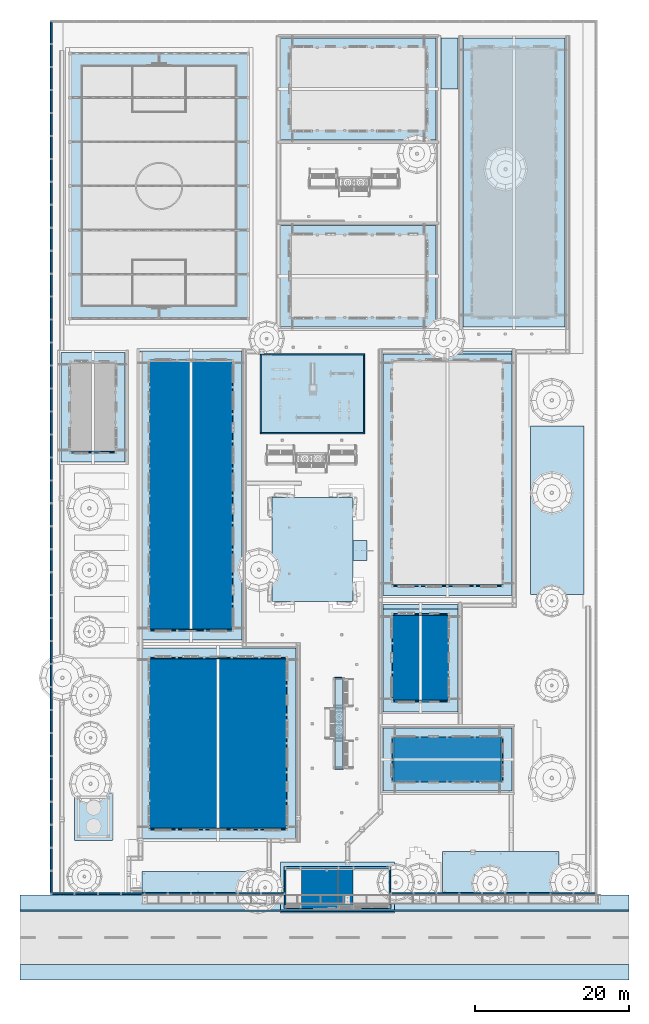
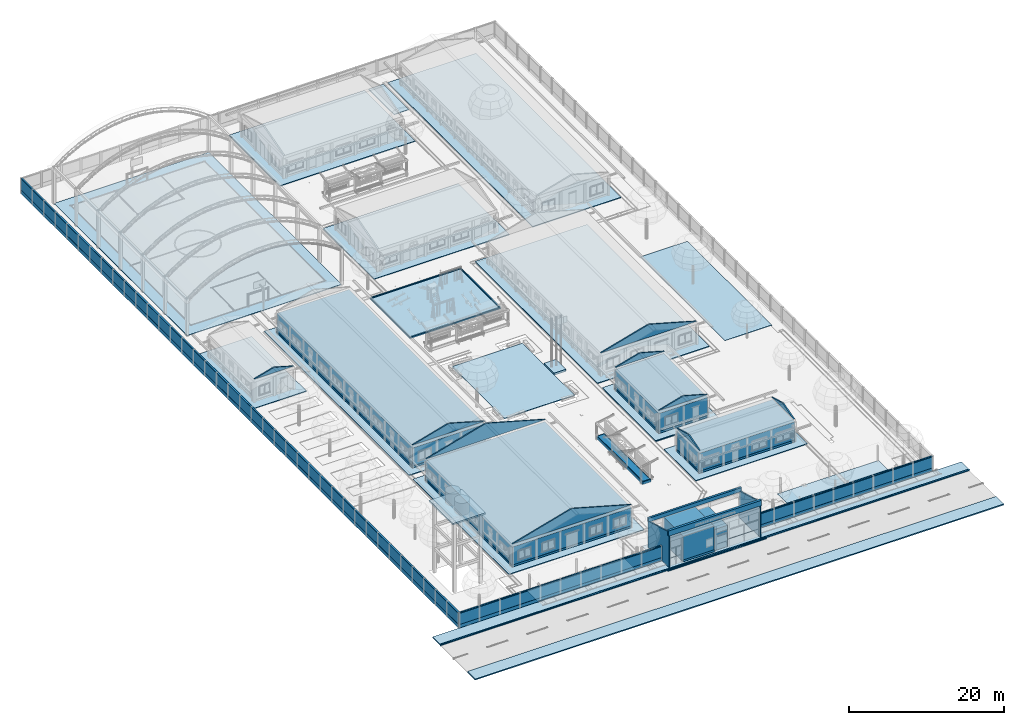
# One storey, part 39 of 177: 35 walls, 31 slabs.
"""IFC4 building model written with IfcOpenShell, lengths in metres."""

from ifc_helpers import new_model, si_unit, origin, origin_with_axes, place, context, subcontext, project, spatial, triangles, element, save


model = new_model("IFC4")

# Units and contexts
model_context = context("Model", 3, precision=1e-05, world=origin_with_axes())
body_context = subcontext(model_context, "Body", "Model", "MODEL_VIEW")
ifc_project = project(units=[si_unit("LENGTHUNIT", "METRE"), si_unit("AREAUNIT", "SQUARE_METRE"), si_unit("VOLUMEUNIT", "CUBIC_METRE"), si_unit("PLANEANGLEUNIT", "RADIAN")], contexts=[model_context])

# Site, building, storey
site_placement = place(None, origin_with_axes())
site = spatial("IfcSite", under=ifc_project, at=site_placement, Name="Predio Los Mangos - Morales, San Martín", CompositionType="ELEMENT")
building_placement = place(site_placement, origin())
building = spatial("IfcBuilding", under=site, at=building_placement, Name="Hogar de Refugio Temporal", CompositionType="ELEMENT")
storey_placement = place(building_placement, origin())
storey = spatial("IfcBuildingStorey", under=building, at=storey_placement, Name="NIVEL 1 (NPT +0.00)", CompositionType="ELEMENT", Elevation=0.0)

# Slabs
slab_1_placement = place(storey_placement, origin())
element("IfcSlab", 1, at=slab_1_placement, inside=storey, Name="vereda_ext", ObjectType="Piso / losa", PredefinedType="FLOOR", context=body_context, shape_type="Tessellation", body=[
    triangles([(-3.0, 15.8, -0.02), (76.0, 15.8, -0.02), (76.0, 17.8, -0.02), (-3.0, 17.8, -0.02), (-3.0, 15.8, 0.15), (76.0, 15.8, 0.15), (76.0, 17.8, 0.15), (-3.0, 17.8, 0.15)], [[1, 4, 3], [1, 3, 2], [5, 6, 7], [5, 7, 8], [1, 2, 6], [1, 6, 5], [2, 3, 7], [2, 7, 6], [3, 4, 8], [3, 8, 7], [4, 1, 5], [4, 5, 8]]),
])
slab_2_placement = place(storey_placement, origin())
element("IfcSlab", 2, at=slab_2_placement, inside=storey, Name="vereda_otra", ObjectType="Piso / losa", PredefinedType="FLOOR", context=body_context, shape_type="Tessellation", body=[
    triangles([(-3.0, 6.8, -0.02), (76.0, 6.8, -0.02), (76.0, 8.8, -0.02), (-3.0, 8.8, -0.02), (-3.0, 6.8, 0.15), (76.0, 6.8, 0.15), (76.0, 8.8, 0.15), (-3.0, 8.8, 0.15)], [[1, 4, 3], [1, 3, 2], [5, 6, 7], [5, 7, 8], [1, 2, 6], [1, 6, 5], [2, 3, 7], [2, 7, 6], [3, 4, 8], [3, 8, 7], [4, 1, 5], [4, 5, 8]]),
])
slab_3_placement = place(storey_placement, origin())
element("IfcSlab", 3, at=slab_3_placement, inside=storey, Name="sardinel", ObjectType="Piso / losa", PredefinedType="FLOOR", context=body_context, shape_type="Tessellation", body=[
    triangles([(-3.0, 15.7, -0.02), (76.0, 15.7, -0.02), (76.0, 15.85, -0.02), (-3.0, 15.85, -0.02), (-3.0, 15.7, 0.17), (76.0, 15.7, 0.17), (76.0, 15.85, 0.17), (-3.0, 15.85, 0.17)], [[1, 4, 3], [1, 3, 2], [5, 6, 7], [5, 7, 8], [1, 2, 6], [1, 6, 5], [2, 3, 7], [2, 7, 6], [3, 4, 8], [3, 8, 7], [4, 1, 5], [4, 5, 8]]),
])
slab_4_placement = place(storey_placement, origin())
element("IfcSlab", 4, at=slab_4_placement, inside=storey, Name="vereda_0", ObjectType="Piso / losa", PredefinedType="FLOOR", context=body_context, shape_type="Tessellation", body=[
    triangles([(44.08, 56.674, 0.0), (60.81, 56.674, 0.0), (60.81, 88.004, 0.0), (44.08, 88.004, 0.0), (44.08, 56.674, 0.1), (44.08, 88.004, 0.1), (60.81, 88.004, 0.1), (60.81, 56.674, 0.1)], [[1, 2, 3], [1, 3, 4], [5, 6, 7], [5, 7, 8], [4, 3, 7], [4, 7, 6], [2, 1, 5], [2, 5, 8], [3, 2, 8], [3, 8, 7], [1, 4, 6], [1, 6, 5]]),
])
slab_5_placement = place(storey_placement, origin())
element("IfcSlab", 5, at=slab_5_placement, inside=storey, Name="vereda_1", ObjectType="Piso / losa", PredefinedType="FLOOR", context=body_context, shape_type="Tessellation", body=[
    triangles([(63.205, 78.669, 0.0), (70.205, 78.669, 0.0), (70.205, 56.844, 0.0), (63.205, 56.844, 0.0), (63.205, 78.669, 0.102), (70.205, 78.669, 0.102), (70.205, 56.844, 0.102), (63.205, 56.844, 0.102)], [[1, 4, 3], [1, 3, 2], [5, 6, 7], [5, 7, 8], [1, 2, 6], [1, 6, 5], [2, 3, 7], [2, 7, 6], [4, 1, 5], [4, 5, 8], [3, 4, 8], [3, 8, 7]]),
])
slab_6_placement = place(storey_placement, origin())
element("IfcSlab", 6, at=slab_6_placement, inside=storey, Name="vereda_2", ObjectType="Piso / losa", PredefinedType="FLOOR", context=body_context, shape_type="Tessellation", body=[
    triangles([(51.635, 129.024, 0.0), (53.835, 129.024, 0.0), (53.835, 122.424, 0.0), (51.635, 122.424, 0.0), (51.635, 129.024, 0.104), (53.835, 129.024, 0.104), (53.835, 122.424, 0.104), (51.635, 122.424, 0.104)], [[1, 4, 3], [1, 3, 2], [5, 6, 7], [5, 7, 8], [1, 2, 6], [1, 6, 5], [2, 3, 7], [2, 7, 6], [4, 1, 5], [4, 5, 8], [3, 4, 8], [3, 8, 7]]),
])
slab_7_placement = place(storey_placement, origin())
element("IfcSlab", 7, at=slab_7_placement, inside=storey, Name="vereda_3", ObjectType="Piso / losa", PredefinedType="FLOOR", context=body_context, shape_type="Tessellation", body=[
    triangles([(54.485, 129.024, 0.0), (54.485, 91.494, 0.0), (67.715, 91.494, 0.0), (67.715, 129.024, 0.0), (54.485, 129.024, 0.106), (67.715, 129.024, 0.106), (67.715, 91.494, 0.106), (54.485, 91.494, 0.106)], [[1, 2, 3], [1, 3, 4], [5, 6, 7], [5, 7, 8], [2, 1, 5], [2, 5, 8], [3, 2, 8], [3, 8, 7], [1, 4, 6], [1, 6, 5], [4, 3, 7], [4, 7, 6]]),
])
slab_8_placement = place(storey_placement, origin())
element("IfcSlab", 8, at=slab_8_placement, inside=storey, Name="vereda_4", ObjectType="Piso / losa", PredefinedType="FLOOR", context=body_context, shape_type="Tessellation", body=[
    triangles([(53.81, 54.905, 0.0), (44.08, 54.905, 0.0), (44.08, 41.575, 0.0), (53.81, 41.575, 0.0), (53.81, 54.905, 0.108), (53.81, 41.575, 0.108), (44.08, 41.575, 0.108), (44.08, 54.905, 0.108)], [[1, 2, 3], [1, 3, 4], [5, 6, 7], [5, 7, 8], [2, 1, 5], [2, 5, 8], [3, 2, 8], [3, 8, 7], [1, 4, 6], [1, 6, 5], [4, 3, 7], [4, 7, 6]]),
])
slab_9_placement = place(storey_placement, origin())
element("IfcSlab", 9, at=slab_9_placement, inside=storey, Name="vereda_5", ObjectType="Piso / losa", PredefinedType="FLOOR", context=body_context, shape_type="Tessellation", body=[
    triangles([(28.185, 88.004, 0.0), (41.685, 88.004, 0.0), (41.685, 77.709, 0.0), (28.185, 77.709, 0.0), (28.185, 88.004, 0.11), (41.685, 88.004, 0.11), (41.685, 77.709, 0.11), (28.185, 77.709, 0.11)], [[1, 4, 3], [1, 3, 2], [5, 6, 7], [5, 7, 8], [1, 2, 6], [1, 6, 5], [2, 3, 7], [2, 7, 6], [4, 1, 5], [4, 5, 8], [3, 4, 8], [3, 8, 7]]),
])
slab_10_placement = place(storey_placement, origin())
element("IfcSlab", 10, at=slab_10_placement, inside=storey, Name="vereda_6", ObjectType="Piso / losa", PredefinedType="FLOOR", context=body_context, shape_type="Tessellation", body=[
    triangles([(28.285, 87.904, 0.0), (41.585, 87.904, 0.0), (41.585, 77.809, 0.0), (28.285, 77.809, 0.0), (28.285, 87.904, 0.112), (41.585, 87.904, 0.112), (41.585, 77.809, 0.112), (28.285, 77.809, 0.112)], [[1, 4, 3], [1, 3, 2], [5, 6, 7], [5, 7, 8], [1, 2, 6], [1, 6, 5], [2, 3, 7], [2, 7, 6], [4, 1, 5], [4, 5, 8], [3, 4, 8], [3, 8, 7]]),
])
slab_11_placement = place(storey_placement, origin())
element("IfcSlab", 11, at=slab_11_placement, inside=storey, Name="E-01_piso", ObjectType="Piso / losa", PredefinedType="FLOOR", context=body_context, shape_type="Tessellation", body=[
    triangles([(12.6, 25.1, 0.0), (32.8, 25.1, 0.0), (32.8, 49.9, 0.0), (12.6, 49.9, 0.0), (12.6, 25.1, 0.15), (32.8, 25.1, 0.15), (32.8, 49.9, 0.15), (12.6, 49.9, 0.15)], [[1, 4, 3], [1, 3, 2], [5, 6, 7], [5, 7, 8], [1, 2, 6], [1, 6, 5], [2, 3, 7], [2, 7, 6], [3, 4, 8], [3, 8, 7], [4, 1, 5], [4, 5, 8]]),
])
slab_12_placement = place(storey_placement, origin())
element("IfcSlab", 12, at=slab_12_placement, inside=storey, Name="E-02_piso", ObjectType="Piso / losa", PredefinedType="FLOOR", context=body_context, shape_type="Tessellation", body=[
    triangles([(44.1, 41.7, 0.0), (53.8, 41.7, 0.0), (53.8, 55.5, 0.0), (44.1, 55.5, 0.0), (44.1, 41.7, 0.15), (53.8, 41.7, 0.15), (53.8, 55.5, 0.15), (44.1, 55.5, 0.15)], [[1, 4, 3], [1, 3, 2], [5, 6, 7], [5, 7, 8], [1, 2, 6], [1, 6, 5], [2, 3, 7], [2, 7, 6], [3, 4, 8], [3, 8, 7], [4, 1, 5], [4, 5, 8]]),
])
slab_13_placement = place(storey_placement, origin())
element("IfcSlab", 13, at=slab_13_placement, inside=storey, Name="E-03_piso", ObjectType="Piso / losa", PredefinedType="FLOOR", context=body_context, shape_type="Tessellation", body=[
    triangles([(44.1, 31.3, 0.0), (60.8, 31.3, 0.0), (60.8, 39.5, 0.0), (44.1, 39.5, 0.0), (44.1, 31.3, 0.15), (60.8, 31.3, 0.15), (60.8, 39.5, 0.15), (44.1, 39.5, 0.15)], [[1, 4, 3], [1, 3, 2], [5, 6, 7], [5, 7, 8], [1, 2, 6], [1, 6, 5], [2, 3, 7], [2, 7, 6], [3, 4, 8], [3, 8, 7], [4, 1, 5], [4, 5, 8]]),
])
slab_14_placement = place(storey_placement, origin())
element("IfcSlab", 14, at=slab_14_placement, inside=storey, Name="E-04_piso", ObjectType="Piso / losa", PredefinedType="FLOOR", context=body_context, shape_type="Tessellation", body=[
    triangles([(12.6, 50.9, 0.0), (25.8, 50.9, 0.0), (25.8, 88.4, 0.0), (12.6, 88.4, 0.0), (12.6, 50.9, 0.15), (25.8, 50.9, 0.15), (25.8, 88.4, 0.15), (12.6, 88.4, 0.15)], [[1, 4, 3], [1, 3, 2], [5, 6, 7], [5, 7, 8], [1, 2, 6], [1, 6, 5], [2, 3, 7], [2, 7, 6], [3, 4, 8], [3, 8, 7], [4, 1, 5], [4, 5, 8]]),
])
slab_15_placement = place(storey_placement, origin())
element("IfcSlab", 15, at=slab_15_placement, inside=storey, Name="E-05_piso", ObjectType="Piso / losa", PredefinedType="FLOOR", context=body_context, shape_type="Tessellation", body=[
    triangles([(44.1, 56.7, 0.0), (60.8, 56.7, 0.0), (60.8, 88.4, 0.0), (44.1, 88.4, 0.0), (44.1, 56.7, 0.15), (60.8, 56.7, 0.15), (60.8, 88.4, 0.15), (44.1, 88.4, 0.15)], [[1, 4, 3], [1, 3, 2], [5, 6, 7], [5, 7, 8], [1, 2, 6], [1, 6, 5], [2, 3, 7], [2, 7, 6], [3, 4, 8], [3, 8, 7], [4, 1, 5], [4, 5, 8]]),
])
slab_16_placement = place(storey_placement, origin())
element("IfcSlab", 16, at=slab_16_placement, inside=storey, Name="E-06_piso", ObjectType="Piso / losa", PredefinedType="FLOOR", context=body_context, shape_type="Tessellation", body=[
    triangles([(30.8, 91.5, 0.0), (51.0, 91.5, 0.0), (51.0, 104.7, 0.0), (30.8, 104.7, 0.0), (30.8, 91.5, 0.15), (51.0, 91.5, 0.15), (51.0, 104.7, 0.15), (30.8, 104.7, 0.15)], [[1, 4, 3], [1, 3, 2], [5, 6, 7], [5, 7, 8], [1, 2, 6], [1, 6, 5], [2, 3, 7], [2, 7, 6], [3, 4, 8], [3, 8, 7], [4, 1, 5], [4, 5, 8]]),
])
slab_17_placement = place(storey_placement, origin())
element("IfcSlab", 17, at=slab_17_placement, inside=storey, Name="E-08_piso", ObjectType="Piso / losa", PredefinedType="FLOOR", context=body_context, shape_type="Tessellation", body=[
    triangles([(30.8, 115.8, 0.0), (51.0, 115.8, 0.0), (51.0, 129.0, 0.0), (30.8, 129.0, 0.0), (30.8, 115.8, 0.15), (51.0, 115.8, 0.15), (51.0, 129.0, 0.15), (30.8, 129.0, 0.15)], [[1, 4, 3], [1, 3, 2], [5, 6, 7], [5, 7, 8], [1, 2, 6], [1, 6, 5], [2, 3, 7], [2, 7, 6], [3, 4, 8], [3, 8, 7], [4, 1, 5], [4, 5, 8]]),
])
slab_18_placement = place(storey_placement, origin())
element("IfcSlab", 18, at=slab_18_placement, inside=storey, Name="E-07_piso", ObjectType="Piso / losa", PredefinedType="FLOOR", context=body_context, shape_type="Tessellation", body=[
    triangles([(54.5, 91.5, 0.0), (67.7, 91.5, 0.0), (67.7, 129.0, 0.0), (54.5, 129.0, 0.0), (54.5, 91.5, 0.15), (67.7, 91.5, 0.15), (67.7, 129.0, 0.15), (54.5, 129.0, 0.15)], [[1, 4, 3], [1, 3, 2], [5, 6, 7], [5, 7, 8], [1, 2, 6], [1, 6, 5], [2, 3, 7], [2, 7, 6], [3, 4, 8], [3, 8, 7], [4, 1, 5], [4, 5, 8]]),
])
slab_19_placement = place(storey_placement, origin())
element("IfcSlab", 19, at=slab_19_placement, inside=storey, Name="E-09_piso", ObjectType="Piso / losa", PredefinedType="FLOOR", context=body_context, shape_type="Tessellation", body=[
    triangles([(2.3, 74.0, 0.0), (10.6, 74.0, 0.0), (10.6, 88.2, 0.0), (2.3, 88.2, 0.0), (2.3, 74.0, 0.15), (10.6, 74.0, 0.15), (10.6, 88.2, 0.15), (2.3, 88.2, 0.15)], [[1, 4, 3], [1, 3, 2], [5, 6, 7], [5, 7, 8], [1, 2, 6], [1, 6, 5], [2, 3, 7], [2, 7, 6], [3, 4, 8], [3, 8, 7], [4, 1, 5], [4, 5, 8]]),
])
slab_20_placement = place(storey_placement, origin())
element("IfcSlab", 20, at=slab_20_placement, inside=storey, Name="losa", ObjectType="Piso / losa", PredefinedType="FLOOR", context=body_context, shape_type="Tessellation", body=[
    triangles([(3.5, 92.6, 0.0), (26.6, 92.6, 0.0), (26.6, 127.0, 0.0), (3.5, 127.0, 0.0), (3.5, 92.6, 0.12), (26.6, 92.6, 0.12), (26.6, 127.0, 0.12), (3.5, 127.0, 0.12)], [[1, 4, 3], [1, 3, 2], [5, 6, 7], [5, 7, 8], [1, 2, 6], [1, 6, 5], [2, 3, 7], [2, 7, 6], [3, 4, 8], [3, 8, 7], [4, 1, 5], [4, 5, 8]]),
])
slab_21_placement = place(storey_placement, origin())
element("IfcSlab", 21, at=slab_21_placement, inside=storey, Name="oe01_piso", ObjectType="Piso / losa", PredefinedType="FLOOR", context=body_context, shape_type="Tessellation", body=[
    triangles([(30.8, 15.5, 0.0), (45.6, 15.5, 0.0), (45.6, 22.1, 0.0), (30.8, 22.1, 0.0), (30.8, 15.5, 0.05), (45.6, 15.5, 0.05), (45.6, 22.1, 0.05), (30.8, 22.1, 0.05)], [[1, 4, 3], [1, 3, 2], [5, 6, 7], [5, 7, 8], [1, 2, 6], [1, 6, 5], [2, 3, 7], [2, 7, 6], [3, 4, 8], [3, 8, 7], [4, 1, 5], [4, 5, 8]]),
])
slab_22_placement = place(storey_placement, origin())
element("IfcSlab", 22, at=slab_22_placement, inside=storey, Name="losa_autos", ObjectType="Piso / losa", PredefinedType="FLOOR", context=body_context, shape_type="Tessellation", body=[
    triangles([(51.8, 18.0, 0.0), (66.9, 18.0, 0.0), (66.9, 23.5, 0.0), (51.8, 23.5, 0.0), (51.8, 18.0, 0.1), (66.9, 18.0, 0.1), (66.9, 23.5, 0.1), (51.8, 23.5, 0.1)], [[1, 4, 3], [1, 3, 2], [5, 6, 7], [5, 7, 8], [1, 2, 6], [1, 6, 5], [2, 3, 7], [2, 7, 6], [3, 4, 8], [3, 8, 7], [4, 1, 5], [4, 5, 8]]),
])
slab_23_placement = place(storey_placement, origin())
element("IfcSlab", 23, at=slab_23_placement, inside=storey, Name="losa_motos", ObjectType="Piso / losa", PredefinedType="FLOOR", context=body_context, shape_type="Tessellation", body=[
    triangles([(12.8, 18.0, 0.0), (27.4, 18.0, 0.0), (27.4, 20.9, 0.0), (12.8, 20.9, 0.0), (12.8, 18.0, 0.1), (27.4, 18.0, 0.1), (27.4, 20.9, 0.1), (12.8, 20.9, 0.1)], [[1, 4, 3], [1, 3, 2], [5, 6, 7], [5, 7, 8], [1, 2, 6], [1, 6, 5], [2, 3, 7], [2, 7, 6], [3, 4, 8], [3, 8, 7], [4, 1, 5], [4, 5, 8]]),
])
slab_24_placement = place(storey_placement, origin())
element("IfcSlab", 24, at=slab_24_placement, inside=storey, Name="tanque_losa", ObjectType="Piso / losa", PredefinedType="FLOOR", context=body_context, shape_type="Tessellation", body=[
    triangles([(4.1, 24.9, 11.0), (9.0, 24.9, 11.0), (9.0, 31.0, 11.0), (4.1, 31.0, 11.0), (4.1, 24.9, 11.25), (9.0, 24.9, 11.25), (9.0, 31.0, 11.25), (4.1, 31.0, 11.25)], [[1, 4, 3], [1, 3, 2], [5, 6, 7], [5, 7, 8], [1, 2, 6], [1, 6, 5], [2, 3, 7], [2, 7, 6], [3, 4, 8], [3, 8, 7], [4, 1, 5], [4, 5, 8]]),
])
slab_25_placement = place(storey_placement, origin())
element("IfcSlab", 25, at=slab_25_placement, inside=storey, Name="plaza_piso", ObjectType="Piso / losa", PredefinedType="FLOOR", context=body_context, shape_type="Tessellation", body=[
    triangles([(29.7, 55.9, 0.0), (40.2, 55.9, 0.0), (40.2, 69.4, 0.0), (29.7, 69.4, 0.0), (29.7, 55.9, 0.12), (40.2, 55.9, 0.12), (40.2, 69.4, 0.12), (29.7, 69.4, 0.12)], [[1, 4, 3], [1, 3, 2], [5, 6, 7], [5, 7, 8], [1, 2, 6], [1, 6, 5], [2, 3, 7], [2, 7, 6], [3, 4, 8], [3, 8, 7], [4, 1, 5], [4, 5, 8]]),
])
slab_26_placement = place(storey_placement, origin())
element("IfcSlab", 26, at=slab_26_placement, inside=storey, Name="asta_base", ObjectType="Piso / losa", PredefinedType="FLOOR", context=body_context, shape_type="Tessellation", body=[
    triangles([(40.2, 61.2, 0.0), (42.0, 61.2, 0.0), (42.0, 63.8, 0.0), (40.2, 63.8, 0.0), (40.2, 61.2, 0.35), (42.0, 61.2, 0.35), (42.0, 63.8, 0.35), (40.2, 63.8, 0.35)], [[1, 4, 3], [1, 3, 2], [5, 6, 7], [5, 7, 8], [1, 2, 6], [1, 6, 5], [2, 3, 7], [2, 7, 6], [3, 4, 8], [3, 8, 7], [4, 1, 5], [4, 5, 8]]),
])
slab_27_placement = place(storey_placement, origin())
element("IfcSlab", 27, at=slab_27_placement, inside=storey, Name="juegos_arena", ObjectType="Piso / losa", PredefinedType="FLOOR", context=body_context, shape_type="Tessellation", body=[
    triangles([(28.3, 77.8, 0.0), (41.6, 77.8, 0.0), (41.6, 87.9, 0.0), (28.3, 87.9, 0.0), (28.3, 77.8, 0.13), (41.6, 77.8, 0.13), (41.6, 87.9, 0.13), (28.3, 87.9, 0.13)], [[1, 4, 3], [1, 3, 2], [5, 6, 7], [5, 7, 8], [1, 2, 6], [1, 6, 5], [2, 3, 7], [2, 7, 6], [3, 4, 8], [3, 8, 7], [4, 1, 5], [4, 5, 8]]),
])
slab_28_placement = place(storey_placement, origin())
element("IfcSlab", 28, at=slab_28_placement, inside=storey, Name="juegos_sardinel", ObjectType="Piso / losa", PredefinedType="FLOOR", context=body_context, shape_type="Tessellation", body=[
    triangles([(28.15, 77.65, 0.0), (41.75, 77.65, 0.0), (41.75, 77.8, 0.0), (28.15, 77.8, 0.0), (28.15, 77.65, 0.26), (41.75, 77.65, 0.26), (41.75, 77.8, 0.26), (28.15, 77.8, 0.26)], [[1, 4, 3], [1, 3, 2], [5, 6, 7], [5, 7, 8], [1, 2, 6], [1, 6, 5], [2, 3, 7], [2, 7, 6], [3, 4, 8], [3, 8, 7], [4, 1, 5], [4, 5, 8]]),
])
slab_29_placement = place(storey_placement, origin())
element("IfcSlab", 29, at=slab_29_placement, inside=storey, Name="juegos_sardinel", ObjectType="Piso / losa", PredefinedType="FLOOR", context=body_context, shape_type="Tessellation", body=[
    triangles([(28.15, 87.9, 0.0), (41.75, 87.9, 0.0), (41.75, 88.05, 0.0), (28.15, 88.05, 0.0), (28.15, 87.9, 0.26), (41.75, 87.9, 0.26), (41.75, 88.05, 0.26), (28.15, 88.05, 0.26)], [[1, 4, 3], [1, 3, 2], [5, 6, 7], [5, 7, 8], [1, 2, 6], [1, 6, 5], [2, 3, 7], [2, 7, 6], [3, 4, 8], [3, 8, 7], [4, 1, 5], [4, 5, 8]]),
])
slab_30_placement = place(storey_placement, origin())
element("IfcSlab", 30, at=slab_30_placement, inside=storey, Name="juegos_sardinel", ObjectType="Piso / losa", PredefinedType="FLOOR", context=body_context, shape_type="Tessellation", body=[
    triangles([(28.15, 77.8, 0.0), (28.3, 77.8, 0.0), (28.3, 87.9, 0.0), (28.15, 87.9, 0.0), (28.15, 77.8, 0.26), (28.3, 77.8, 0.26), (28.3, 87.9, 0.26), (28.15, 87.9, 0.26)], [[1, 4, 3], [1, 3, 2], [5, 6, 7], [5, 7, 8], [1, 2, 6], [1, 6, 5], [2, 3, 7], [2, 7, 6], [3, 4, 8], [3, 8, 7], [4, 1, 5], [4, 5, 8]]),
])
slab_31_placement = place(storey_placement, origin())
element("IfcSlab", 31, at=slab_31_placement, inside=storey, Name="juegos_sardinel", ObjectType="Piso / losa", PredefinedType="FLOOR", context=body_context, shape_type="Tessellation", body=[
    triangles([(41.6, 77.8, 0.0), (41.75, 77.8, 0.0), (41.75, 87.9, 0.0), (41.6, 87.9, 0.0), (41.6, 77.8, 0.26), (41.75, 77.8, 0.26), (41.75, 87.9, 0.26), (41.6, 87.9, 0.26)], [[1, 4, 3], [1, 3, 2], [5, 6, 7], [5, 7, 8], [1, 2, 6], [1, 6, 5], [2, 3, 7], [2, 7, 6], [3, 4, 8], [3, 8, 7], [4, 1, 5], [4, 5, 8]]),
])

# Walls
wall_1_placement = place(storey_placement, origin())
element("IfcWall", 32, at=wall_1_placement, inside=storey, Name="E-01_muro", ObjectType="Muro", PredefinedType="NOTDEFINED", context=body_context, shape_type="Tessellation", body=[
    triangles([(13.8, 26.3, 0.15), (31.6, 26.3, 0.15), (31.6, 48.7, 0.15), (13.8, 48.7, 0.15), (13.8, 26.3, 3.3), (31.6, 26.3, 3.3), (31.6, 48.7, 3.3), (13.8, 48.7, 3.3)], [[1, 4, 3], [1, 3, 2], [5, 6, 7], [5, 7, 8], [1, 2, 6], [1, 6, 5], [2, 3, 7], [2, 7, 6], [3, 4, 8], [3, 8, 7], [4, 1, 5], [4, 5, 8]]),
])
wall_2_placement = place(storey_placement, origin())
element("IfcWall", 33, at=wall_2_placement, inside=storey, Name="E-01_zocalo", ObjectType="Muro", PredefinedType="NOTDEFINED", context=body_context, shape_type="Tessellation", body=[
    triangles([(13.78, 26.28, 0.15), (31.62, 26.28, 0.15), (31.62, 48.72, 0.15), (13.78, 48.72, 0.15), (13.78, 26.28, 0.45), (31.62, 26.28, 0.45), (31.62, 48.72, 0.45), (13.78, 48.72, 0.45)], [[1, 4, 3], [1, 3, 2], [5, 6, 7], [5, 7, 8], [1, 2, 6], [1, 6, 5], [2, 3, 7], [2, 7, 6], [3, 4, 8], [3, 8, 7], [4, 1, 5], [4, 5, 8]]),
])
wall_3_placement = place(storey_placement, origin())
element("IfcWall", 34, at=wall_3_placement, inside=storey, Name="E-01_hastial", ObjectType="Muro", PredefinedType="NOTDEFINED", context=body_context, shape_type="Tessellation", body=[
    triangles([(13.8, 26.3, 3.75), (22.7, 26.3, 6.242), (31.6, 26.3, 3.75), (13.8, 26.5, 3.75), (22.7, 26.5, 6.242), (31.6, 26.5, 3.75)], [[1, 2, 3], [4, 6, 5], [1, 4, 5], [1, 5, 2], [2, 5, 6], [2, 6, 3], [1, 3, 6], [1, 6, 4]]),
])
wall_4_placement = place(storey_placement, origin())
element("IfcWall", 35, at=wall_4_placement, inside=storey, Name="E-01_hastial", ObjectType="Muro", PredefinedType="NOTDEFINED", context=body_context, shape_type="Tessellation", body=[
    triangles([(13.8, 48.7, 3.75), (22.7, 48.7, 6.242), (31.6, 48.7, 3.75), (13.8, 48.5, 3.75), (22.7, 48.5, 6.242), (31.6, 48.5, 3.75)], [[1, 2, 3], [4, 6, 5], [1, 4, 5], [1, 5, 2], [2, 5, 6], [2, 6, 3], [1, 3, 6], [1, 6, 4]]),
])
wall_5_placement = place(storey_placement, origin())
element("IfcWall", 36, at=wall_5_placement, inside=storey, Name="E-02_muro", ObjectType="Muro", PredefinedType="NOTDEFINED", context=body_context, shape_type="Tessellation", body=[
    triangles([(45.3, 42.9, 0.15), (52.6, 42.9, 0.15), (52.6, 54.3, 0.15), (45.3, 54.3, 0.15), (45.3, 42.9, 3.3), (52.6, 42.9, 3.3), (52.6, 54.3, 3.3), (45.3, 54.3, 3.3)], [[1, 4, 3], [1, 3, 2], [5, 6, 7], [5, 7, 8], [1, 2, 6], [1, 6, 5], [2, 3, 7], [2, 7, 6], [3, 4, 8], [3, 8, 7], [4, 1, 5], [4, 5, 8]]),
])
wall_6_placement = place(storey_placement, origin())
element("IfcWall", 37, at=wall_6_placement, inside=storey, Name="E-02_zocalo", ObjectType="Muro", PredefinedType="NOTDEFINED", context=body_context, shape_type="Tessellation", body=[
    triangles([(45.28, 42.88, 0.15), (52.62, 42.88, 0.15), (52.62, 54.32, 0.15), (45.28, 54.32, 0.15), (45.28, 42.88, 0.45), (52.62, 42.88, 0.45), (52.62, 54.32, 0.45), (45.28, 54.32, 0.45)], [[1, 4, 3], [1, 3, 2], [5, 6, 7], [5, 7, 8], [1, 2, 6], [1, 6, 5], [2, 3, 7], [2, 7, 6], [3, 4, 8], [3, 8, 7], [4, 1, 5], [4, 5, 8]]),
])
wall_7_placement = place(storey_placement, origin())
element("IfcWall", 38, at=wall_7_placement, inside=storey, Name="E-02_hastial", ObjectType="Muro", PredefinedType="NOTDEFINED", context=body_context, shape_type="Tessellation", body=[
    triangles([(45.3, 42.9, 3.75), (48.95, 42.9, 4.772), (52.6, 42.9, 3.75), (45.3, 43.1, 3.75), (48.95, 43.1, 4.772), (52.6, 43.1, 3.75)], [[1, 2, 3], [4, 6, 5], [1, 4, 5], [1, 5, 2], [2, 5, 6], [2, 6, 3], [1, 3, 6], [1, 6, 4]]),
])
wall_8_placement = place(storey_placement, origin())
element("IfcWall", 39, at=wall_8_placement, inside=storey, Name="E-02_hastial", ObjectType="Muro", PredefinedType="NOTDEFINED", context=body_context, shape_type="Tessellation", body=[
    triangles([(45.3, 54.3, 3.75), (48.95, 54.3, 4.772), (52.6, 54.3, 3.75), (45.3, 54.1, 3.75), (48.95, 54.1, 4.772), (52.6, 54.1, 3.75)], [[1, 2, 3], [4, 6, 5], [1, 4, 5], [1, 5, 2], [2, 5, 6], [2, 6, 3], [1, 3, 6], [1, 6, 4]]),
])
wall_9_placement = place(storey_placement, origin())
element("IfcWall", 40, at=wall_9_placement, inside=storey, Name="E-03_muro", ObjectType="Muro", PredefinedType="NOTDEFINED", context=body_context, shape_type="Tessellation", body=[
    triangles([(45.3, 32.5, 0.15), (59.6, 32.5, 0.15), (59.6, 38.3, 0.15), (45.3, 38.3, 0.15), (45.3, 32.5, 3.3), (59.6, 32.5, 3.3), (59.6, 38.3, 3.3), (45.3, 38.3, 3.3)], [[1, 4, 3], [1, 3, 2], [5, 6, 7], [5, 7, 8], [1, 2, 6], [1, 6, 5], [2, 3, 7], [2, 7, 6], [3, 4, 8], [3, 8, 7], [4, 1, 5], [4, 5, 8]]),
])
wall_10_placement = place(storey_placement, origin())
element("IfcWall", 41, at=wall_10_placement, inside=storey, Name="E-03_zocalo", ObjectType="Muro", PredefinedType="NOTDEFINED", context=body_context, shape_type="Tessellation", body=[
    triangles([(45.28, 32.48, 0.15), (59.62, 32.48, 0.15), (59.62, 38.32, 0.15), (45.28, 38.32, 0.15), (45.28, 32.48, 0.45), (59.62, 32.48, 0.45), (59.62, 38.32, 0.45), (45.28, 38.32, 0.45)], [[1, 4, 3], [1, 3, 2], [5, 6, 7], [5, 7, 8], [1, 2, 6], [1, 6, 5], [2, 3, 7], [2, 7, 6], [3, 4, 8], [3, 8, 7], [4, 1, 5], [4, 5, 8]]),
])
wall_11_placement = place(storey_placement, origin())
element("IfcWall", 42, at=wall_11_placement, inside=storey, Name="E-03_hastial", ObjectType="Muro", PredefinedType="NOTDEFINED", context=body_context, shape_type="Tessellation", body=[
    triangles([(45.3, 32.5, 3.75), (45.3, 35.4, 4.562), (45.3, 38.3, 3.75), (45.5, 32.5, 3.75), (45.5, 35.4, 4.562), (45.5, 38.3, 3.75)], [[1, 2, 3], [4, 6, 5], [1, 4, 5], [1, 5, 2], [2, 5, 6], [2, 6, 3], [1, 3, 6], [1, 6, 4]]),
])
wall_12_placement = place(storey_placement, origin())
element("IfcWall", 43, at=wall_12_placement, inside=storey, Name="E-03_hastial", ObjectType="Muro", PredefinedType="NOTDEFINED", context=body_context, shape_type="Tessellation", body=[
    triangles([(59.6, 32.5, 3.75), (59.6, 35.4, 4.562), (59.6, 38.3, 3.75), (59.4, 32.5, 3.75), (59.4, 35.4, 4.562), (59.4, 38.3, 3.75)], [[1, 2, 3], [4, 6, 5], [1, 4, 5], [1, 5, 2], [2, 5, 6], [2, 6, 3], [1, 3, 6], [1, 6, 4]]),
])
wall_13_placement = place(storey_placement, origin())
element("IfcWall", 44, at=wall_13_placement, inside=storey, Name="E-04_muro", ObjectType="Muro", PredefinedType="NOTDEFINED", context=body_context, shape_type="Tessellation", body=[
    triangles([(13.8, 52.1, 0.15), (24.6, 52.1, 0.15), (24.6, 87.2, 0.15), (13.8, 87.2, 0.15), (13.8, 52.1, 3.3), (24.6, 52.1, 3.3), (24.6, 87.2, 3.3), (13.8, 87.2, 3.3)], [[1, 4, 3], [1, 3, 2], [5, 6, 7], [5, 7, 8], [1, 2, 6], [1, 6, 5], [2, 3, 7], [2, 7, 6], [3, 4, 8], [3, 8, 7], [4, 1, 5], [4, 5, 8]]),
])
wall_14_placement = place(storey_placement, origin())
element("IfcWall", 45, at=wall_14_placement, inside=storey, Name="E-04_zocalo", ObjectType="Muro", PredefinedType="NOTDEFINED", context=body_context, shape_type="Tessellation", body=[
    triangles([(13.78, 52.08, 0.15), (24.62, 52.08, 0.15), (24.62, 87.22, 0.15), (13.78, 87.22, 0.15), (13.78, 52.08, 0.45), (24.62, 52.08, 0.45), (24.62, 87.22, 0.45), (13.78, 87.22, 0.45)], [[1, 4, 3], [1, 3, 2], [5, 6, 7], [5, 7, 8], [1, 2, 6], [1, 6, 5], [2, 3, 7], [2, 7, 6], [3, 4, 8], [3, 8, 7], [4, 1, 5], [4, 5, 8]]),
])
wall_15_placement = place(storey_placement, origin())
element("IfcWall", 46, at=wall_15_placement, inside=storey, Name="E-04_hastial", ObjectType="Muro", PredefinedType="NOTDEFINED", context=body_context, shape_type="Tessellation", body=[
    triangles([(13.8, 52.1, 3.75), (19.2, 52.1, 5.262), (24.6, 52.1, 3.75), (13.8, 52.3, 3.75), (19.2, 52.3, 5.262), (24.6, 52.3, 3.75)], [[1, 2, 3], [4, 6, 5], [1, 4, 5], [1, 5, 2], [2, 5, 6], [2, 6, 3], [1, 3, 6], [1, 6, 4]]),
])
wall_16_placement = place(storey_placement, origin())
element("IfcWall", 47, at=wall_16_placement, inside=storey, Name="E-05_hastial", ObjectType="Muro", PredefinedType="NOTDEFINED", context=body_context, shape_type="Tessellation", body=[
    triangles([(45.3, 57.9, 3.75), (52.45, 57.9, 5.752), (59.6, 57.9, 3.75), (45.3, 58.1, 3.75), (52.45, 58.1, 5.752), (59.6, 58.1, 3.75)], [[1, 2, 3], [4, 6, 5], [1, 4, 5], [1, 5, 2], [2, 5, 6], [2, 6, 3], [1, 3, 6], [1, 6, 4]]),
])
wall_17_placement = place(storey_placement, origin())
element("IfcWall", 48, at=wall_17_placement, inside=storey, Name="E-09_hastial", ObjectType="Muro", PredefinedType="NOTDEFINED", context=body_context, shape_type="Tessellation", body=[
    triangles([(3.5, 75.2, 3.75), (6.45, 75.2, 4.576), (9.4, 75.2, 3.75), (3.5, 75.4, 3.75), (6.45, 75.4, 4.576), (9.4, 75.4, 3.75)], [[1, 2, 3], [4, 6, 5], [1, 4, 5], [1, 5, 2], [2, 5, 6], [2, 6, 3], [1, 3, 6], [1, 6, 4]]),
])
wall_18_placement = place(storey_placement, origin())
element("IfcWall", 49, at=wall_18_placement, inside=storey, Name="oe01_parapeto", ObjectType="Muro", PredefinedType="NOTDEFINED", context=body_context, shape_type="Tessellation", body=[
    triangles([(31.25, 16.05, 5.09), (45.15, 16.05, 5.09), (45.15, 16.4, 5.09), (31.25, 16.4, 5.09), (31.25, 16.05, 5.95), (45.15, 16.05, 5.95), (45.15, 16.4, 5.95), (31.25, 16.4, 5.95)], [[1, 4, 3], [1, 3, 2], [5, 6, 7], [5, 7, 8], [1, 2, 6], [1, 6, 5], [2, 3, 7], [2, 7, 6], [3, 4, 8], [3, 8, 7], [4, 1, 5], [4, 5, 8]]),
])
wall_19_placement = place(storey_placement, origin())
element("IfcWall", 50, at=wall_19_placement, inside=storey, Name="oe01_parapeto_post", ObjectType="Muro", PredefinedType="NOTDEFINED", context=body_context, shape_type="Tessellation", body=[
    triangles([(31.25, 21.25, 4.19), (45.15, 21.25, 4.19), (45.15, 21.55, 4.19), (31.25, 21.55, 4.19), (31.25, 21.25, 4.79), (45.15, 21.25, 4.79), (45.15, 21.55, 4.79), (31.25, 21.55, 4.79)], [[1, 4, 3], [1, 3, 2], [5, 6, 7], [5, 7, 8], [1, 2, 6], [1, 6, 5], [2, 3, 7], [2, 7, 6], [3, 4, 8], [3, 8, 7], [4, 1, 5], [4, 5, 8]]),
])
wall_20_placement = place(storey_placement, origin())
element("IfcWall", 51, at=wall_20_placement, inside=storey, Name="oe01_lateral", ObjectType="Muro", PredefinedType="NOTDEFINED", context=body_context, shape_type="Tessellation", body=[
    triangles([(31.3, 16.1, 0.05), (31.3, 21.5, 0.05), (31.3, 21.5, 4.19), (31.3, 16.1, 5.72), (31.5, 16.1, 0.05), (31.5, 21.5, 0.05), (31.5, 21.5, 4.19), (31.5, 16.1, 5.72)], [[1, 2, 3], [1, 3, 4], [5, 8, 7], [5, 7, 6], [1, 5, 6], [1, 6, 2], [2, 6, 7], [2, 7, 3], [3, 7, 8], [3, 8, 4], [4, 8, 5], [4, 5, 1]]),
])
wall_21_placement = place(storey_placement, origin())
element("IfcWall", 52, at=wall_21_placement, inside=storey, Name="oe01_lateral", ObjectType="Muro", PredefinedType="NOTDEFINED", context=body_context, shape_type="Tessellation", body=[
    triangles([(45.1, 16.1, 0.05), (45.1, 21.5, 0.05), (45.1, 21.5, 4.19), (45.1, 16.1, 5.72), (44.9, 16.1, 0.05), (44.9, 21.5, 0.05), (44.9, 21.5, 4.19), (44.9, 16.1, 5.72)], [[1, 2, 3], [1, 3, 4], [5, 8, 7], [5, 7, 6], [1, 5, 6], [1, 6, 2], [2, 6, 7], [2, 7, 3], [3, 7, 8], [3, 8, 4], [4, 8, 5], [4, 5, 1]]),
])
wall_22_placement = place(storey_placement, origin())
element("IfcWall", 53, at=wall_22_placement, inside=storey, Name="oe01_muro_m1", ObjectType="Muro", PredefinedType="NOTDEFINED", context=body_context, shape_type="Tessellation", body=[
    triangles([(33.518, 16.25, 0.05), (38.1649, 16.25, 0.05), (38.1649, 21.35, 0.05), (33.518, 21.35, 0.05), (33.518, 16.25, 4.18), (38.1649, 16.25, 4.18), (38.1649, 21.35, 4.18), (33.518, 21.35, 4.18)], [[1, 4, 3], [1, 3, 2], [5, 6, 7], [5, 7, 8], [1, 2, 6], [1, 6, 5], [2, 3, 7], [2, 7, 6], [3, 4, 8], [3, 8, 7], [4, 1, 5], [4, 5, 8]]),
])
wall_23_placement = place(storey_placement, origin())
element("IfcWall", 54, at=wall_23_placement, inside=storey, Name="oe01_zocalo", ObjectType="Muro", PredefinedType="NOTDEFINED", context=body_context, shape_type="Tessellation", body=[
    triangles([(33.508, 16.24, 0.05), (38.1749, 16.24, 0.05), (38.1749, 16.3, 0.05), (33.508, 16.3, 0.05), (33.508, 16.24, 0.45), (38.1749, 16.24, 0.45), (38.1749, 16.3, 0.45), (33.508, 16.3, 0.45)], [[1, 4, 3], [1, 3, 2], [5, 6, 7], [5, 7, 8], [1, 2, 6], [1, 6, 5], [2, 3, 7], [2, 7, 6], [3, 4, 8], [3, 8, 7], [4, 1, 5], [4, 5, 8]]),
])
wall_24_placement = place(storey_placement, origin())
element("IfcWall", 55, at=wall_24_placement, inside=storey, Name="oe01_caseta", ObjectType="Muro", PredefinedType="NOTDEFINED", context=body_context, shape_type="Tessellation", body=[
    triangles([(38.3255, 16.4, 0.05), (40.2324, 16.4, 0.05), (40.2324, 21.35, 0.05), (38.3255, 21.35, 0.05), (38.3255, 16.4, 3.5), (40.2324, 16.4, 3.5), (40.2324, 21.35, 3.5), (38.3255, 21.35, 3.5)], [[1, 4, 3], [1, 3, 2], [5, 6, 7], [5, 7, 8], [1, 2, 6], [1, 6, 5], [2, 3, 7], [2, 7, 6], [3, 4, 8], [3, 8, 7], [4, 1, 5], [4, 5, 8]]),
])
wall_25_placement = place(storey_placement, origin())
element("IfcWall", 56, at=wall_25_placement, inside=storey, Name="cerco_muro", ObjectType="Muro", PredefinedType="NOTDEFINED", context=body_context, shape_type="Tessellation", body=[
    triangles([(1.05, 17.925, 0.0), (31.3, 17.925, 0.0), (31.3, 18.075, 0.0), (1.05, 18.075, 0.0), (1.05, 17.925, 2.4), (31.3, 17.925, 2.4), (31.3, 18.075, 2.4), (1.05, 18.075, 2.4)], [[1, 4, 3], [1, 3, 2], [5, 6, 7], [5, 7, 8], [1, 2, 6], [1, 6, 5], [2, 3, 7], [2, 7, 6], [3, 4, 8], [3, 8, 7], [4, 1, 5], [4, 5, 8]]),
])
wall_26_placement = place(storey_placement, origin())
element("IfcWall", 57, at=wall_26_placement, inside=storey, Name="cerco_zocalo", ObjectType="Muro", PredefinedType="NOTDEFINED", context=body_context, shape_type="Tessellation", body=[
    triangles([(1.05, 17.915, 0.0), (31.3, 17.915, 0.0), (31.3, 18.085, 0.0), (1.05, 18.085, 0.0), (1.05, 17.915, 0.6), (31.3, 17.915, 0.6), (31.3, 18.085, 0.6), (1.05, 18.085, 0.6)], [[1, 4, 3], [1, 3, 2], [5, 6, 7], [5, 7, 8], [1, 2, 6], [1, 6, 5], [2, 3, 7], [2, 7, 6], [3, 4, 8], [3, 8, 7], [4, 1, 5], [4, 5, 8]]),
])
wall_27_placement = place(storey_placement, origin())
element("IfcWall", 58, at=wall_27_placement, inside=storey, Name="cerco_remate", ObjectType="Muro", PredefinedType="NOTDEFINED", context=body_context, shape_type="Tessellation", body=[
    triangles([(1.05, 17.875, 2.4), (31.3, 17.875, 2.4), (31.3, 18.125, 2.4), (1.05, 18.125, 2.4), (1.05, 17.875, 2.46), (31.3, 17.875, 2.46), (31.3, 18.125, 2.46), (1.05, 18.125, 2.46)], [[1, 4, 3], [1, 3, 2], [5, 6, 7], [5, 7, 8], [1, 2, 6], [1, 6, 5], [2, 3, 7], [2, 7, 6], [3, 4, 8], [3, 8, 7], [4, 1, 5], [4, 5, 8]]),
])
wall_28_placement = place(storey_placement, origin())
element("IfcWall", 59, at=wall_28_placement, inside=storey, Name="cerco_muro", ObjectType="Muro", PredefinedType="NOTDEFINED", context=body_context, shape_type="Tessellation", body=[
    triangles([(45.1, 17.925, 0.0), (71.76, 17.925, 0.0), (71.76, 18.075, 0.0), (45.1, 18.075, 0.0), (45.1, 17.925, 2.4), (71.76, 17.925, 2.4), (71.76, 18.075, 2.4), (45.1, 18.075, 2.4)], [[1, 4, 3], [1, 3, 2], [5, 6, 7], [5, 7, 8], [1, 2, 6], [1, 6, 5], [2, 3, 7], [2, 7, 6], [3, 4, 8], [3, 8, 7], [4, 1, 5], [4, 5, 8]]),
])
wall_29_placement = place(storey_placement, origin())
element("IfcWall", 60, at=wall_29_placement, inside=storey, Name="cerco_zocalo", ObjectType="Muro", PredefinedType="NOTDEFINED", context=body_context, shape_type="Tessellation", body=[
    triangles([(45.1, 17.915, 0.0), (71.76, 17.915, 0.0), (71.76, 18.085, 0.0), (45.1, 18.085, 0.0), (45.1, 17.915, 0.6), (71.76, 17.915, 0.6), (71.76, 18.085, 0.6), (45.1, 18.085, 0.6)], [[1, 4, 3], [1, 3, 2], [5, 6, 7], [5, 7, 8], [1, 2, 6], [1, 6, 5], [2, 3, 7], [2, 7, 6], [3, 4, 8], [3, 8, 7], [4, 1, 5], [4, 5, 8]]),
])
wall_30_placement = place(storey_placement, origin())
element("IfcWall", 61, at=wall_30_placement, inside=storey, Name="cerco_remate", ObjectType="Muro", PredefinedType="NOTDEFINED", context=body_context, shape_type="Tessellation", body=[
    triangles([(45.1, 17.875, 2.4), (71.76, 17.875, 2.4), (71.76, 18.125, 2.4), (45.1, 18.125, 2.4), (45.1, 17.875, 2.46), (71.76, 17.875, 2.46), (71.76, 18.125, 2.46), (45.1, 18.125, 2.46)], [[1, 4, 3], [1, 3, 2], [5, 6, 7], [5, 7, 8], [1, 2, 6], [1, 6, 5], [2, 3, 7], [2, 7, 6], [3, 4, 8], [3, 8, 7], [4, 1, 5], [4, 5, 8]]),
])
wall_31_placement = place(storey_placement, origin())
element("IfcWall", 62, at=wall_31_placement, inside=storey, Name="cerco_muro", ObjectType="Muro", PredefinedType="NOTDEFINED", context=body_context, shape_type="Tessellation", body=[
    triangles([(0.975, 131.21, 0.0), (0.975, 18.0, 0.0), (1.125, 18.0, 0.0), (1.125, 131.21, 0.0), (0.975, 131.21, 2.4), (0.975, 18.0, 2.4), (1.125, 18.0, 2.4), (1.125, 131.21, 2.4)], [[1, 4, 3], [1, 3, 2], [5, 6, 7], [5, 7, 8], [1, 2, 6], [1, 6, 5], [2, 3, 7], [2, 7, 6], [3, 4, 8], [3, 8, 7], [4, 1, 5], [4, 5, 8]]),
])
wall_32_placement = place(storey_placement, origin())
element("IfcWall", 63, at=wall_32_placement, inside=storey, Name="cerco_zocalo", ObjectType="Muro", PredefinedType="NOTDEFINED", context=body_context, shape_type="Tessellation", body=[
    triangles([(0.965, 131.21, 0.0), (0.965, 18.0, 0.0), (1.135, 18.0, 0.0), (1.135, 131.21, 0.0), (0.965, 131.21, 0.6), (0.965, 18.0, 0.6), (1.135, 18.0, 0.6), (1.135, 131.21, 0.6)], [[1, 4, 3], [1, 3, 2], [5, 6, 7], [5, 7, 8], [1, 2, 6], [1, 6, 5], [2, 3, 7], [2, 7, 6], [3, 4, 8], [3, 8, 7], [4, 1, 5], [4, 5, 8]]),
])
wall_33_placement = place(storey_placement, origin())
element("IfcWall", 64, at=wall_33_placement, inside=storey, Name="cerco_remate", ObjectType="Muro", PredefinedType="NOTDEFINED", context=body_context, shape_type="Tessellation", body=[
    triangles([(0.925, 131.21, 2.4), (0.925, 18.0, 2.4), (1.175, 18.0, 2.4), (1.175, 131.21, 2.4), (0.925, 131.21, 2.46), (0.925, 18.0, 2.46), (1.175, 18.0, 2.46), (1.175, 131.21, 2.46)], [[1, 4, 3], [1, 3, 2], [5, 6, 7], [5, 7, 8], [1, 2, 6], [1, 6, 5], [2, 3, 7], [2, 7, 6], [3, 4, 8], [3, 8, 7], [4, 1, 5], [4, 5, 8]]),
])
wall_34_placement = place(storey_placement, origin())
element("IfcWall", 65, at=wall_34_placement, inside=storey, Name="jardinera", ObjectType="Muro", PredefinedType="NOTDEFINED", context=body_context, shape_type="Tessellation", body=[
    triangles([(39.0, 34.105, 0.0), (39.0, 46.095, 0.0), (37.8, 46.095, 0.0), (37.8, 34.105, 0.0), (39.0, 34.105, 0.45), (39.0, 46.095, 0.45), (37.8, 46.095, 0.45), (37.8, 34.105, 0.45)], [[1, 4, 3], [1, 3, 2], [5, 6, 7], [5, 7, 8], [1, 2, 6], [1, 6, 5], [2, 3, 7], [2, 7, 6], [3, 4, 8], [3, 8, 7], [4, 1, 5], [4, 5, 8]]),
])
wall_35_placement = place(storey_placement, origin())
element("IfcWall", 66, at=wall_35_placement, inside=storey, Name="jardinera_tierra", ObjectType="Muro", PredefinedType="NOTDEFINED", context=body_context, shape_type="Tessellation", body=[
    triangles([(38.9, 34.205, 0.4), (38.9, 45.995, 0.4), (37.9, 45.995, 0.4), (37.9, 34.205, 0.4), (38.9, 34.205, 0.455), (38.9, 45.995, 0.455), (37.9, 45.995, 0.455), (37.9, 34.205, 0.455)], [[1, 4, 3], [1, 3, 2], [5, 6, 7], [5, 7, 8], [1, 2, 6], [1, 6, 5], [2, 3, 7], [2, 7, 6], [3, 4, 8], [3, 8, 7], [4, 1, 5], [4, 5, 8]]),
])

save(model, "model.ifc")
